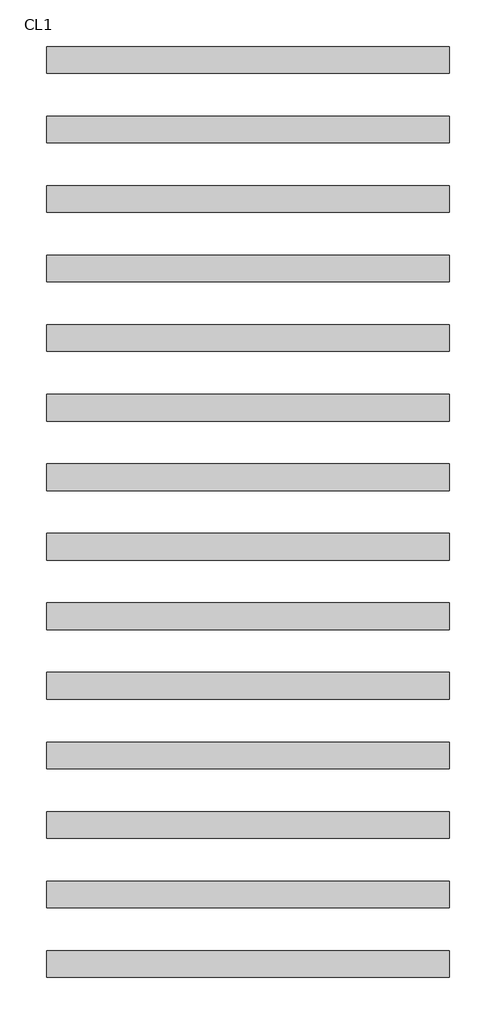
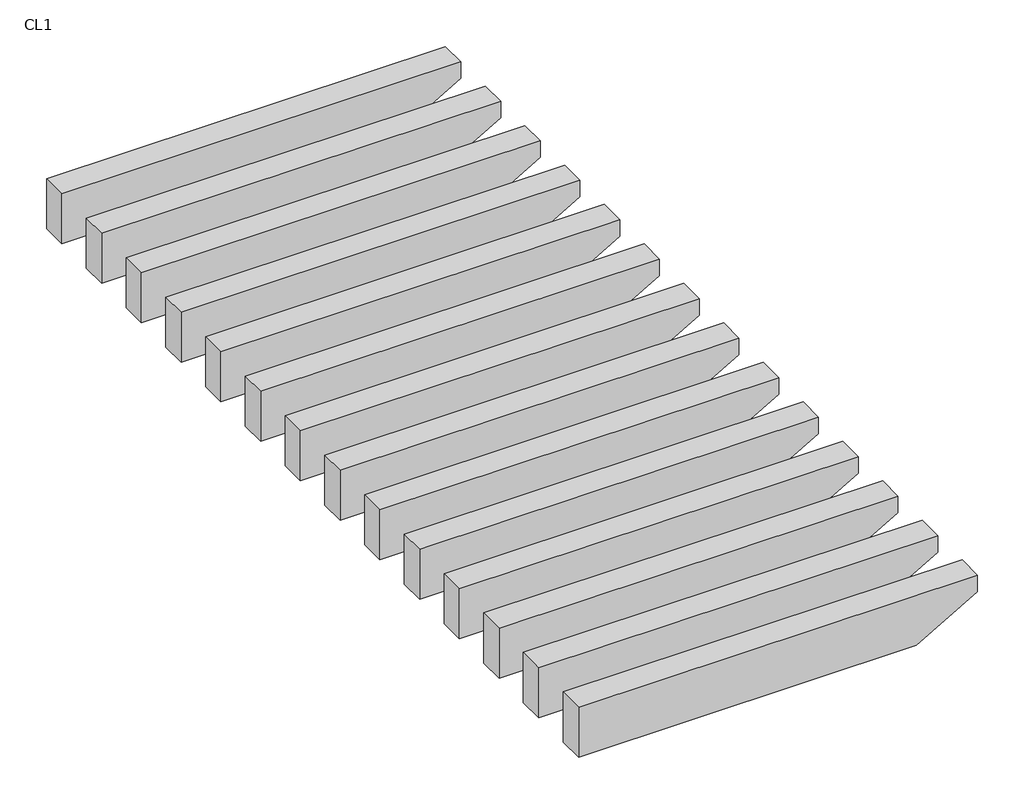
# One storey, incomplete: 1 proxy.
"""IFC4 building model written with IfcOpenShell, lengths in millimetres."""

from ifc_helpers import new_model, si_unit, origin, place, context, project, spatial, transform, mapped, element, save
from components import generic_models_23ad3c99

model = new_model("IFC4")

# Units and contexts
model_context = context("Model", 3, world=origin())
ifc_project = project(units=[si_unit("LENGTHUNIT", "METRE", prefix="MILLI")], contexts=[model_context])

# Site, building, storey
site = spatial("IfcSite", under=ifc_project)
building = spatial("IfcBuilding", under=site)
storey = spatial("IfcBuildingStorey", under=building, Name="CL1", Elevation=2570.0)

# Proxy
placement = place(None, origin())
generic_models_shape = generic_models_23ad3c99(model_context)
element("IfcBuildingElementProxy", 1, Name="常规模型 1 : 常规模型 1", ObjectType="常规模型 1 : 常规模型 1", at=placement, inside=storey, context=model_context, shape_type="MappedRepresentation", body=[
    mapped(generic_models_shape, transform((0.0, 0.0, 0.0), x_axis=(1.0, 0.0, 0.0), y_axis=(0.0, 1.0, 0.0), z_axis=(0.0, 0.0, 1.0))),
])

save(model, "model.ifc")
